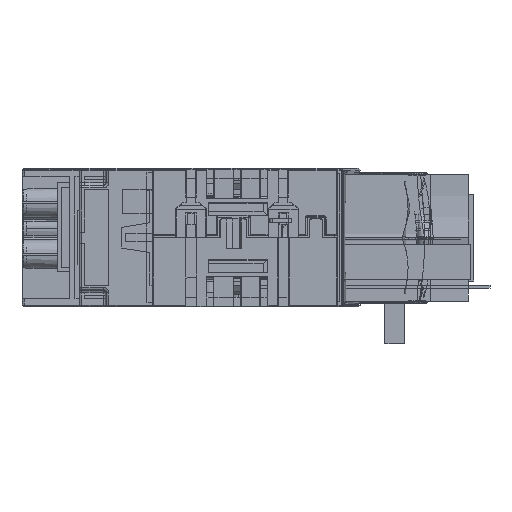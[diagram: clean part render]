
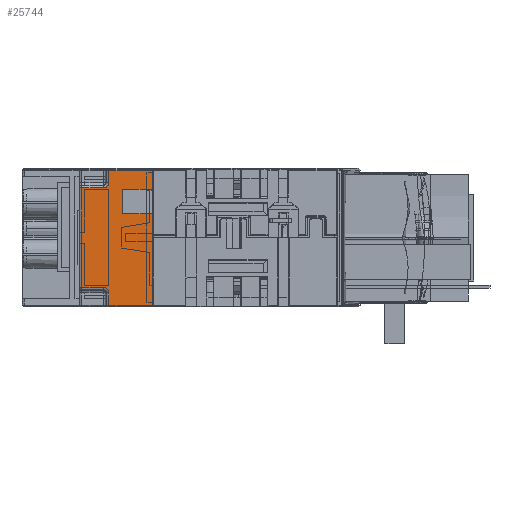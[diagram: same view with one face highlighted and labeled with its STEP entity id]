
A CAD part, left-side view. The second image highlights one B-rep face of the part: STEP entity #25744.
In plain terms, the highlighted planar face has unit normal (1, 0, 0).
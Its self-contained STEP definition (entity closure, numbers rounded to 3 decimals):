
#5201=DIRECTION('',(0.,0.,-1.));
#5202=VECTOR('',#5201,4.516);
#5203=CARTESIAN_POINT('',(0.,38.5,
-0.634));
#5204=LINE('',#5203,#5202);
#5339=DIRECTION('',(0.,1.,0.));
#5340=VECTOR('',#5339,8.);
#5341=CARTESIAN_POINT('',(0.,40.5,
-7.15));
#5342=LINE('',#5341,#5340);
#5347=CARTESIAN_POINT('',(0.,40.5,-5.15));
#5348=DIRECTION('',(-1.,0.,0.));
#5349=DIRECTION('',(0.,0.,-1.));
#5350=AXIS2_PLACEMENT_3D('',#5347,#5348,#5349);
#5352=CARTESIAN_POINT('',(0.,40.5,-45.85));
#5353=DIRECTION('',(-1.,0.,0.));
#5354=DIRECTION('',(0.,-1.,0.));
#5355=AXIS2_PLACEMENT_3D('',#5352,#5353,#5354);
#5357=DIRECTION('',(0.,0.,-1.));
#5358=VECTOR('',#5357,33.616);
#5359=CARTESIAN_POINT('',(0.,22.5,-16.75));
#5360=LINE('',#5359,#5358);
#5361=DIRECTION('',(0.,0.,-1.));
#5362=VECTOR('',#5361,7.116);
#5363=CARTESIAN_POINT('',(0.,22.5,-0.634));
#5364=LINE('',#5363,#5362);
#5369=DIRECTION('',(0.,1.,0.));
#5370=VECTOR('',#5369,16.);
#5371=CARTESIAN_POINT('',(0.,22.5,-0.634));
#5372=LINE('',#5371,#5370);
#5384=CARTESIAN_POINT('',(0.,22.5,-0.634));
#12598=DIRECTION('',(0.,-1.,0.));
#12599=VECTOR('',#12598,16.);
#12600=CARTESIAN_POINT('',(0.,38.5,
-50.366));
#12601=LINE('',#12600,#12599);
#12622=DIRECTION('',(0.,0.,-1.));
#12623=VECTOR('',#12622,4.516);
#12624=CARTESIAN_POINT('',(0.,38.5,
-45.85));
#12625=LINE('',#12624,#12623);
#12649=DIRECTION('',(0.,-1.,0.));
#12650=VECTOR('',#12649,8.);
#12651=CARTESIAN_POINT('',(0.,48.5,
-43.85));
#12652=LINE('',#12651,#12650);
#13376=DIRECTION('',(0.,0.,-1.));
#13377=VECTOR('',#13376,36.7);
#13378=CARTESIAN_POINT('',(0.,48.5,-7.15));
#13379=LINE('',#13378,#13377);
#18282=DIRECTION('',(0.,-1.,0.));
#18283=VECTOR('',#18282,11.);
#18284=CARTESIAN_POINT('',(0.,33.5,-7.75));
#18285=LINE('',#18284,#18283);
#18286=DIRECTION('',(0.,0.,1.));
#18287=VECTOR('',#18286,9.);
#18288=CARTESIAN_POINT('',(0.,33.5,-16.75));
#18289=LINE('',#18288,#18287);
#18310=DIRECTION('',(0.,-1.,0.));
#18311=VECTOR('',#18310,11.);
#18312=CARTESIAN_POINT('',(0.,33.5,-16.75));
#18313=LINE('',#18312,#18311);
#20169=VERTEX_POINT('',#5384);
#20170=CARTESIAN_POINT('',(0.,22.5,-7.75));
#20171=VERTEX_POINT('',#20170);
#20176=CARTESIAN_POINT('',(0.,22.5,-16.75));
#20177=VERTEX_POINT('',#20176);
#20178=CARTESIAN_POINT('',(0.,22.5,-50.366));
#20179=VERTEX_POINT('',#20178);
#21250=CARTESIAN_POINT('',(0.,38.5,
-0.634));
#21251=VERTEX_POINT('',#21250);
#21252=CARTESIAN_POINT('',(0.,38.5,
-5.15));
#21253=VERTEX_POINT('',#21252);
#21254=CARTESIAN_POINT('',(0.,40.5,
-7.15));
#21255=VERTEX_POINT('',#21254);
#21256=CARTESIAN_POINT('',(0.,48.5,-7.15));
#21257=VERTEX_POINT('',#21256);
#21258=CARTESIAN_POINT('',(0.,48.5,
-43.85));
#21259=VERTEX_POINT('',#21258);
#21260=CARTESIAN_POINT('',(0.,40.5,
-43.85));
#21261=VERTEX_POINT('',#21260);
#21262=CARTESIAN_POINT('',(0.,38.5,
-45.85));
#21263=VERTEX_POINT('',#21262);
#21264=CARTESIAN_POINT('',(0.,38.5,
-50.366));
#21265=VERTEX_POINT('',#21264);
#21266=CARTESIAN_POINT('',(0.,33.5,-16.75));
#21267=VERTEX_POINT('',#21266);
#21268=CARTESIAN_POINT('',(0.,33.5,-7.75));
#21269=VERTEX_POINT('',#21268);
#25712=CARTESIAN_POINT('',(0.,35.5,-25.5));
#25713=DIRECTION('',(1.,0.,0.));
#25714=DIRECTION('',(0.,0.,-1.));
#25715=AXIS2_PLACEMENT_3D('',#25712,#25713,#25714);
#25716=PLANE('',#25715);
#25718=ORIENTED_EDGE('',*,*,#25717,.T.);
#25719=ORIENTED_EDGE('',*,*,#25555,.T.);
#25720=ORIENTED_EDGE('',*,*,#25570,.F.);
#25721=ORIENTED_EDGE('',*,*,#25703,.T.);
#25723=ORIENTED_EDGE('',*,*,#25722,.T.);
#25725=ORIENTED_EDGE('',*,*,#25724,.T.);
#25727=ORIENTED_EDGE('',*,*,#25726,.F.);
#25729=ORIENTED_EDGE('',*,*,#25728,.T.);
#25731=ORIENTED_EDGE('',*,*,#25730,.T.);
#25733=ORIENTED_EDGE('',*,*,#25732,.F.);
#25735=ORIENTED_EDGE('',*,*,#25734,.F.);
#25737=ORIENTED_EDGE('',*,*,#25736,.T.);
#25739=ORIENTED_EDGE('',*,*,#25738,.T.);
#25741=ORIENTED_EDGE('',*,*,#25740,.F.);
#25742=EDGE_LOOP('',(#25718,#25719,#25720,#25721,#25723,#25725,#25727,#25729,
#25731,#25733,#25735,#25737,#25739,#25741));
#25743=FACE_OUTER_BOUND('',#25742,.F.);
#5351=CIRCLE('',#5350,2.);
#5356=CIRCLE('',#5355,2.);
#25555=EDGE_CURVE('',#21251,#21253,#5204,.T.);
#25570=EDGE_CURVE('',#21255,#21253,#5351,.T.);
#25703=EDGE_CURVE('',#21255,#21257,#5342,.T.);
#25717=EDGE_CURVE('',#20169,#21251,#5372,.T.);
#25722=EDGE_CURVE('',#21257,#21259,#13379,.T.);
#25724=EDGE_CURVE('',#21259,#21261,#12652,.T.);
#25726=EDGE_CURVE('',#21263,#21261,#5356,.T.);
#25728=EDGE_CURVE('',#21263,#21265,#12625,.T.);
#25730=EDGE_CURVE('',#21265,#20179,#12601,.T.);
#25732=EDGE_CURVE('',#20177,#20179,#5360,.T.);
#25734=EDGE_CURVE('',#21267,#20177,#18313,.T.);
#25736=EDGE_CURVE('',#21267,#21269,#18289,.T.);
#25738=EDGE_CURVE('',#21269,#20171,#18285,.T.);
#25740=EDGE_CURVE('',#20169,#20171,#5364,.T.);
#25744=ADVANCED_FACE('',(#25743),#25716,.T.);
